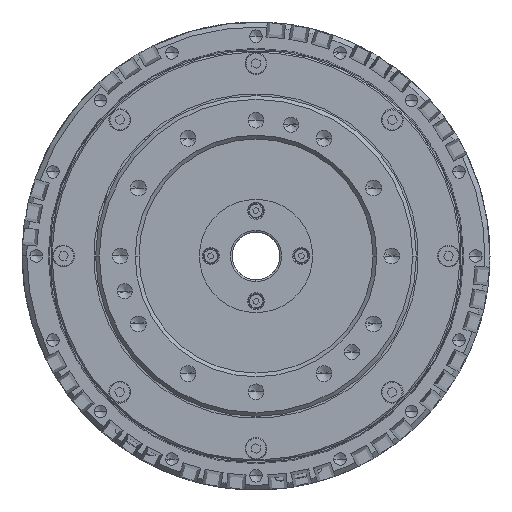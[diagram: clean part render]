
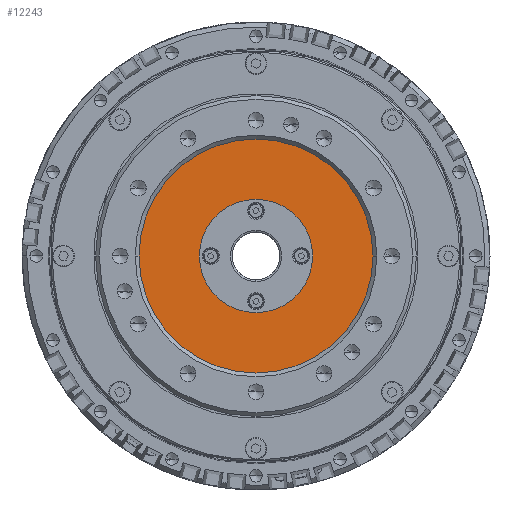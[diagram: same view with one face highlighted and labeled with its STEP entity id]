
A CAD part, front view. The second image highlights one B-rep face of the part: STEP entity #12243.
In plain terms, the highlighted planar face has unit normal (0, -1, 0).
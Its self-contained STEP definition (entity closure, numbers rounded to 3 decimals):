
#419 = FACE_BOUND ( 'NONE', #34432, .T. ) ;
#1599 = EDGE_CURVE ( 'NONE', #35969, #5684, #15381, .T. ) ;
#3156 = CARTESIAN_POINT ( 'NONE',  ( 0., 3.5, -15. ) ) ;
#3696 = DIRECTION ( 'NONE',  ( 0., -1., 0. ) ) ;
#5354 = EDGE_CURVE ( 'NONE', #5684, #35969, #11831, .T. ) ;
#5450 = AXIS2_PLACEMENT_3D ( 'NONE', #24789, #3696, #20615 ) ;
#5684 = VERTEX_POINT ( 'NONE', #48545 ) ;
#6065 = ORIENTED_EDGE ( 'NONE', *, *, #1599, .T. ) ;
#6205 = EDGE_CURVE ( 'NONE', #33404, #12533, #53359, .T. ) ;
#6581 = ORIENTED_EDGE ( 'NONE', *, *, #53828, .F. ) ;
#7366 = DIRECTION ( 'NONE',  ( 0., -1., 0. ) ) ;
#7393 = AXIS2_PLACEMENT_3D ( 'NONE', #33007, #29091, #37452 ) ;
#8920 = CARTESIAN_POINT ( 'NONE',  ( 0., 3.5, 0. ) ) ;
#11831 = CIRCLE ( 'NONE', #7393, 31. ) ;
#12243 = ADVANCED_FACE ( 'NONE', ( #419, #25936 ), #37457, .T. ) ;
#12533 = VERTEX_POINT ( 'NONE', #3156 ) ;
#15381 = CIRCLE ( 'NONE', #42008, 31. ) ;
#17419 = AXIS2_PLACEMENT_3D ( 'NONE', #49705, #50247, #54393 ) ;
#20131 = CARTESIAN_POINT ( 'NONE',  ( 0., 3.5, 0. ) ) ;
#20615 = DIRECTION ( 'NONE',  ( 0., 0., -1. ) ) ;
#21008 = CARTESIAN_POINT ( 'NONE',  ( 0., 3.5, 15. ) ) ;
#24789 = CARTESIAN_POINT ( 'NONE',  ( 0., 3.5, 0. ) ) ;
#25557 = DIRECTION ( 'NONE',  ( 0., 0., -1. ) ) ;
#25936 = FACE_OUTER_BOUND ( 'NONE', #52415, .T. ) ;
#28067 = CIRCLE ( 'NONE', #28990, 15. ) ;
#28990 = AXIS2_PLACEMENT_3D ( 'NONE', #20131, #7366, #54868 ) ;
#29091 = DIRECTION ( 'NONE',  ( 0., -1., 0. ) ) ;
#33007 = CARTESIAN_POINT ( 'NONE',  ( 0., 3.5, 0. ) ) ;
#33404 = VERTEX_POINT ( 'NONE', #21008 ) ;
#34432 = EDGE_LOOP ( 'NONE', ( #6581, #34907 ) ) ;
#34907 = ORIENTED_EDGE ( 'NONE', *, *, #6205, .F. ) ;
#35969 = VERTEX_POINT ( 'NONE', #41048 ) ;
#37452 = DIRECTION ( 'NONE',  ( 0., 0., -1. ) ) ;
#37457 = PLANE ( 'NONE',  #17419 ) ;
#41048 = CARTESIAN_POINT ( 'NONE',  ( 0., 3.5, -31. ) ) ;
#42008 = AXIS2_PLACEMENT_3D ( 'NONE', #8920, #47005, #25557 ) ;
#43561 = ORIENTED_EDGE ( 'NONE', *, *, #5354, .T. ) ;
#47005 = DIRECTION ( 'NONE',  ( 0., -1., 0. ) ) ;
#48545 = CARTESIAN_POINT ( 'NONE',  ( 0., 3.5, 31. ) ) ;
#49705 = CARTESIAN_POINT ( 'NONE',  ( 0., 3.5, 0. ) ) ;
#50247 = DIRECTION ( 'NONE',  ( 0., -1., 0. ) ) ;
#52415 = EDGE_LOOP ( 'NONE', ( #6065, #43561 ) ) ;
#53359 = CIRCLE ( 'NONE', #5450, 15. ) ;
#53828 = EDGE_CURVE ( 'NONE', #12533, #33404, #28067, .T. ) ;
#54393 = DIRECTION ( 'NONE',  ( 0., 0., -1. ) ) ;
#54868 = DIRECTION ( 'NONE',  ( 0., 0., -1. ) ) ;
